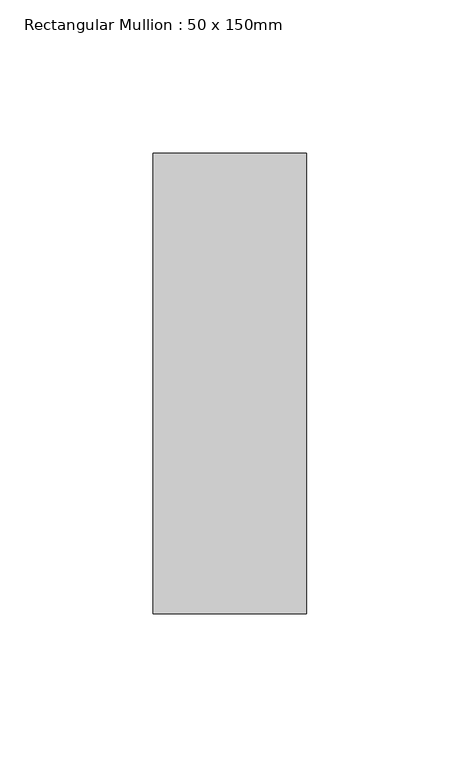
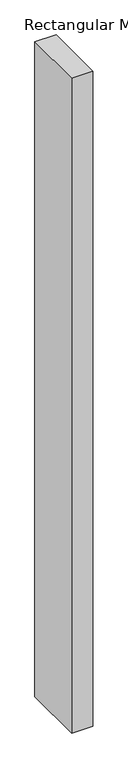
"""IFC4 building model written with IfcOpenShell, lengths in millimetres: member geometry, Rectangular Mullion : 50 x 150mm."""

from ifc_helpers import new_model, si_unit, frame, origin, place, context, project, spatial, polyline, outline, extrude, source, transform, mapped, element, save


def rectangular_mullion_50_x_150mm_096bd82a(model_context):
    return source(origin(), model_context, "Body", "SweptSolid", [
        extrude(outline(polyline([(25.0, 75.0), (25.0, -75.0), (-25.0, -75.0), (-25.0, 75.0), (25.0, 75.0)])), frame((0.0, 0.0, -1628.9731009), z_axis=(0.0, 0.0, 1.0), x_axis=(1.0, 0.0, 0.0)), (0.0, 0.0, 1.0), 1628.9731009),
    ])


if __name__ == "__main__":
    model = new_model("IFC4")
    model_context = context("Model", 3, world=origin())
    ifc_project = project(units=[si_unit("LENGTHUNIT", "METRE", prefix="MILLI")], contexts=[model_context])
    site = spatial("IfcSite", under=ifc_project)
    building = spatial("IfcBuilding", under=site)
    placement = place(None, origin())
    rectangular_mullion_50_x_150mm_shape = rectangular_mullion_50_x_150mm_096bd82a(model_context)
    element("IfcMember", 1, ObjectType="Rectangular Mullion : 50 x 150mm", at=placement, inside=building, context=model_context, shape_type="MappedRepresentation", body=[
        mapped(rectangular_mullion_50_x_150mm_shape, transform((0.0, 0.0, 0.0), x_axis=(1.0, 0.0, 0.0), y_axis=(0.0, 1.0, 0.0), z_axis=(0.0, 0.0, 1.0))),
    ])
    save(model, "model.ifc")
